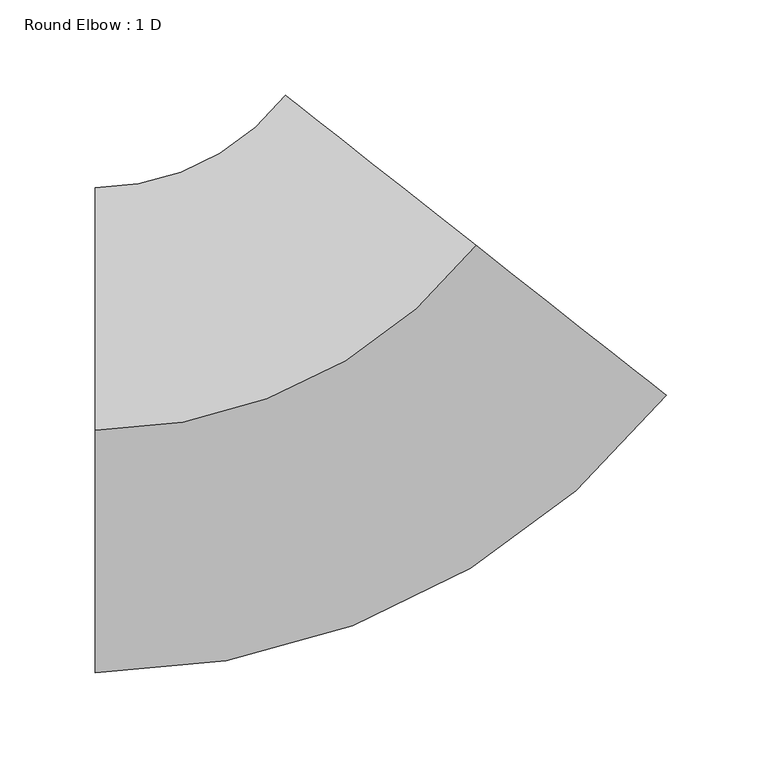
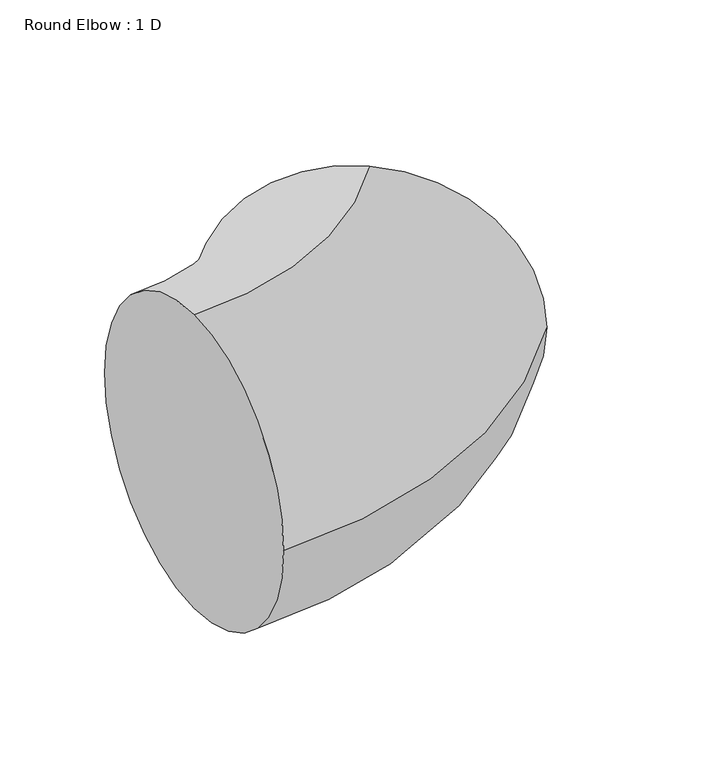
"""IFC4 building model written with IfcOpenShell, lengths in millimetres: duct fitting geometry, Round Elbow : 1 D."""

import ifcopenshell
import ifcopenshell.guid

model = None  # the IFC model being written
_history = None  # IfcOwnerHistory: only IFC2X3 demands one
_inside = {}  # id of a spatial element -> (the spatial element, [elements in it])
_under = {}  # id of a project, library or spatial element -> (it, [spatial elements below it])
_declared = {}  # id of a project -> (the project, [libraries it declares])
_typed = {}  # id of a type object -> (the type object, [elements of that type])
_made_of = {}  # id of a material, layer set ... -> (it, [elements and type objects made of it])


def new_model(schema):
    """Start an empty IFC model of exactly this schema.

    Asked for "IFC4X3", IfcOpenShell would pick the latest addendum, in which some entities
    have other attributes; the version numbers below select the first issue.
    IFC2X3 requires an IfcOwnerHistory on every rooted entity: one is made here for all.
    """
    global model, _history
    if schema == "IFC4X3":
        model = ifcopenshell.file(schema_version=(4, 3, 0, 0))
    else:
        model = ifcopenshell.file(schema=schema)
    _inside.clear()
    _under.clear()
    _declared.clear()
    _typed.clear()
    _made_of.clear()
    _history = None
    if model.schema == "IFC2X3":
        org = make("IfcOrganization", Name="unknown")
        user = make(
            "IfcPersonAndOrganization",
            ThePerson=make("IfcPerson", FamilyName="unknown"),
            TheOrganization=org,
        )
        app = make(
            "IfcApplication",
            ApplicationDeveloper=org,
            Version="unknown",
            ApplicationFullName="unknown",
            ApplicationIdentifier="unknown",
        )
        _history = make(
            "IfcOwnerHistory",
            OwningUser=user,
            OwningApplication=app,
            ChangeAction="ADDED",
            CreationDate=0,
        )
    return model


def make(cls, **values):
    """One entity of the class cls with the attributes given. An attribute that is None is left unset."""
    return model.create_entity(
        cls, **{name: value for name, value in values.items() if value is not None}
    )


def rooted(cls, **values):
    """An entity with a GlobalId (a new one), such as an element, a storey or a relation."""
    return make(cls, GlobalId=ifcopenshell.guid.new(), OwnerHistory=_history, **values)


def si_unit(unit_type, name, prefix=None):
    """IfcSIUnit, for example si_unit("LENGTHUNIT", "METRE", prefix="MILLI")."""
    return make("IfcSIUnit", UnitType=unit_type, Prefix=prefix, Name=name)


def assignment(units):
    """IfcUnitAssignment: the units of a project."""
    return None if units is None else make("IfcUnitAssignment", Units=units)


def point(xyz):
    """IfcCartesianPoint."""
    return None if xyz is None else make("IfcCartesianPoint", Coordinates=xyz)


def direction(xyz):
    """IfcDirection."""
    return None if xyz is None else make("IfcDirection", DirectionRatios=xyz)


def frame(location, z_axis=None, x_axis=None):
    """IfcAxis2Placement3D, a coordinate frame: its origin and axes. An axis left out is left unset."""
    return make(
        "IfcAxis2Placement3D",
        Location=point(location),
        Axis=direction(z_axis),
        RefDirection=direction(x_axis),
    )


def origin():
    """The frame at (0, 0, 0) with its axes left unset."""
    return frame((0.0, 0.0, 0.0))


def place(relative_to, where):
    """IfcLocalPlacement: puts the frame where relative to a parent placement (None: the world)."""
    return make(
        "IfcLocalPlacement", PlacementRelTo=relative_to, RelativePlacement=where
    )


def context(
    kind, dimensions, precision=None, world=None, true_north=None, identifier=None
):
    """IfcGeometricRepresentationContext, for example the 3D "Model" context."""
    return make(
        "IfcGeometricRepresentationContext",
        ContextIdentifier=identifier,
        ContextType=kind,
        CoordinateSpaceDimension=dimensions,
        Precision=precision,
        WorldCoordinateSystem=world,
        TrueNorth=true_north,
    )


def project(units=None, contexts=None):
    """IfcProject with its units and contexts."""
    return rooted(
        "IfcProject",
        Name="project",
        RepresentationContexts=contexts,
        UnitsInContext=assignment(units),
    )


def spatial(cls, under=None, at=None, **own):
    """A site, building, storey or space (cls), placed at a placement, below another one or the project."""
    s = rooted(cls, ObjectPlacement=at, **own)
    if under is not None:
        _under.setdefault(under.id(), (under, []))[1].append(s)
    return s


def circle_curve(where, radius):
    """IfcCircle in the frame where."""
    return make("IfcCircle", Position=where, Radius=radius)


def ellipse_curve(where, semi_axis1, semi_axis2):
    """IfcEllipse in the frame where."""
    return make(
        "IfcEllipse", Position=where, SemiAxis1=semi_axis1, SemiAxis2=semi_axis2
    )


def trimmed(basis, trim1, trim2, sense, master):
    """IfcTrimmedCurve: the piece of a basis curve between two trims."""
    return make(
        "IfcTrimmedCurve",
        BasisCurve=basis,
        Trim1=trim1,
        Trim2=trim2,
        SenseAgreement=sense,
        MasterRepresentation=master,
    )


def shape(context_of_items, identifier, shape_type, items):
    """IfcShapeRepresentation: the items that make up one representation, for example the "Body"."""
    return make(
        "IfcShapeRepresentation",
        ContextOfItems=context_of_items,
        RepresentationIdentifier=identifier,
        RepresentationType=shape_type,
        Items=items,
    )


def source(mapping_origin, context_of_items, identifier, shape_type, items):
    """IfcRepresentationMap: a shape defined once, which mapped items show again and again."""
    return make(
        "IfcRepresentationMap",
        MappingOrigin=mapping_origin,
        MappedRepresentation=shape(context_of_items, identifier, shape_type, items),
    )


def transform(
    local_origin,
    x_axis=None,
    y_axis=None,
    z_axis=None,
    scale=None,
    scale2=None,
    scale3=None,
    uniform=True,
):
    """IfcCartesianTransformationOperator3D, or its non-uniform kind. x_axis, y_axis, z_axis: its Axis1, 2, 3."""
    if uniform:
        return make(
            "IfcCartesianTransformationOperator3D",
            Axis1=direction(x_axis),
            Axis2=direction(y_axis),
            LocalOrigin=point(local_origin),
            Scale=scale,
            Axis3=direction(z_axis),
        )
    return make(
        "IfcCartesianTransformationOperator3DnonUniform",
        Axis1=direction(x_axis),
        Axis2=direction(y_axis),
        LocalOrigin=point(local_origin),
        Scale=scale,
        Axis3=direction(z_axis),
        Scale2=scale2,
        Scale3=scale3,
    )


def mapped(mapping_source, mapping_target):
    """IfcMappedItem: shows the shape of a source again, moved by a transform."""
    return make(
        "IfcMappedItem", MappingSource=mapping_source, MappingTarget=mapping_target
    )


def made_of(thing, what):
    """Note that an element or type object is made of a material, layer set ...; save() writes the relation."""
    if what is not None:
        _made_of.setdefault(what.id(), (what, []))[1].append(thing)
    return thing


def element(
    cls,
    number,
    at=None,
    inside=None,
    cuts=None,
    type_object=None,
    material=None,
    context=None,
    identifier="Body",
    shape_type=None,
    held_by="IfcProductDefinitionShape",
    body=None,
    shapes=None,
    **own,
):
    """One element of the class cls, such as IfcWall. Its Tag is "e" and its number.

    at: its placement. inside: the storey or other place that contains it. cuts: it is an
    opening in that element (IfcRelVoidsElement). A single representation is given by context,
    identifier, shape_type and body (its items); several are given by shapes. held_by: the class
    of the entity that holds the representations. save() writes the other relations.
    """
    e = rooted(cls, Tag="e%d" % number, ObjectPlacement=at, **own)
    if body is not None:
        shapes = [shape(context, identifier, shape_type, body)]
    if shapes is not None:
        e.Representation = make(held_by, Representations=shapes)
    if inside is not None:
        _inside.setdefault(inside.id(), (inside, []))[1].append(e)
    if cuts is not None:
        rooted(
            "IfcRelVoidsElement", RelatingBuildingElement=cuts, RelatedOpeningElement=e
        )
    if type_object is not None:
        _typed.setdefault(type_object.id(), (type_object, []))[1].append(e)
    return made_of(e, material)


def aggregate(whole, parts):
    """IfcRelAggregates: a whole, such as a stair, and the parts it consists of."""
    return rooted("IfcRelAggregates", RelatingObject=whole, RelatedObjects=parts)


def save(model, path):
    """Write the relations noted so far, then the file.

    IfcRelAggregates (storeys below a building ...), IfcRelContainedInSpatialStructure (elements
    in a storey), IfcRelDefinesByType, IfcRelAssociatesMaterial and IfcRelDeclares: one each for
    every whole, place, type object, material and project.
    """
    for whole, parts in _under.values():
        aggregate(whole, parts)
    for where, things in _inside.values():
        rooted(
            "IfcRelContainedInSpatialStructure",
            RelatedElements=things,
            RelatingStructure=where,
        )
    for kind, things in _typed.values():
        rooted("IfcRelDefinesByType", RelatedObjects=things, RelatingType=kind)
    for what, things in _made_of.values():
        rooted("IfcRelAssociatesMaterial", RelatedObjects=things, RelatingMaterial=what)
    for by, libraries in _declared.values():
        rooted("IfcRelDeclares", RelatingContext=by, RelatedDefinitions=libraries)
    model.write(path)


def plane_surface(at):
    """IfcPlane: the flat surface through the origin of the frame at, square to its z axis."""
    return make("IfcPlane", Position=at)


def revolved_surface(curve, axis_point, axis_direction):
    """IfcSurfaceOfRevolution: the curve turned about the line through axis_point along axis_direction."""
    return make(
        "IfcSurfaceOfRevolution",
        SweptCurve=make("IfcArbitraryOpenProfileDef", ProfileType="CURVE", Curve=curve),
        AxisPosition=make("IfcAxis1Placement", Location=point(axis_point), Axis=direction(axis_direction)),
    )


def advanced_brep(points, edges, surfaces, faces):
    """IfcAdvancedBrep: a solid bounded by faces that lie on surfaces and meet in shared edges.

    An edge is (start, end): straight between two places in points (the first is 0);
    or (start, end, curve); or (start, end, curve, False) where it runs against its curve.
    A face is (place in surfaces, loops), or (place, loops, False) where it looks against
    its surface's normal. A loop lists edges by number (the first is 1), with a minus sign
    where the edge is run from its end to its start. The first loop is the outer one.
    """
    corners = [point(p) for p in points]
    vertices = [make("IfcVertexPoint", VertexGeometry=c) for c in corners]
    made = []
    for start, end, *more in edges:
        made.append(
            make(
                "IfcEdgeCurve",
                EdgeStart=vertices[start],
                EdgeEnd=vertices[end],
                EdgeGeometry=more[0] if more else make("IfcPolyline", Points=[corners[start], corners[end]]),
                SameSense=more[1] if len(more) > 1 else True,
            )
        )
    hull = []
    for where, loops, *sense in faces:
        bounds = []
        for j, loop in enumerate(loops):
            ring = [make("IfcOrientedEdge", EdgeElement=made[abs(k) - 1], Orientation=k > 0) for k in loop]
            bounds.append(
                make(
                    "IfcFaceOuterBound" if j == 0 else "IfcFaceBound",
                    Bound=make("IfcEdgeLoop", EdgeList=ring),
                    Orientation=True,
                )
            )
        hull.append(make("IfcAdvancedFace", Bounds=bounds, FaceSurface=surfaces[where], SameSense=sense[0] if sense else True))
    return make("IfcAdvancedBrep", Outer=make("IfcClosedShell", CfsFaces=hull))


def round_elbow_1_d_feab72b3(model_context):
    return source(origin(), model_context, "Body", "AdvancedBrep", [
        advanced_brep(
        [(-123.2884883, 0.0, 127.0), (-123.2884883, 127.0, 0.0), (-123.2884883, 0.0, -127.0), (-123.2884883, -127.0, 0.0), (76.2718255, 96.8641315, 127.0), (176.0519824, 18.2961973, 0.0), (76.2718255, 96.8641315, -127.0), (-23.5083314, 175.4320658, 0.0)],
        [
            (0, 1, circle_curve(frame((-123.2884883, 0.0, 0.0), z_axis=(-1.0, 0.0, 0.0), x_axis=(0.0, 1.0, 0.0)), 127.0)),
            (1, 2, circle_curve(frame((-123.2884883, 0.0, 0.0), z_axis=(-1.0, 0.0, 0.0), x_axis=(0.0, 1.0, 0.0)), 127.0)),
            (2, 3, circle_curve(frame((-123.2884883, 0.0, 0.0), z_axis=(-1.0, 0.0, 0.0), x_axis=(0.0, 1.0, 0.0)), 127.0)),
            (3, 0, circle_curve(frame((-123.2884883, 0.0, 0.0), z_axis=(-1.0, 0.0, 0.0), x_axis=(0.0, 1.0, 0.0)), 127.0)),
            (4, 5, circle_curve(frame((76.2718255, 96.8641315, 0.0), z_axis=(0.6186451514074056, 0.7856705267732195, 0.0), x_axis=(-0.7856705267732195, 0.6186451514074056, 0.0)), 127.0)),
            (5, 6, circle_curve(frame((76.2718255, 96.8641315, 0.0), z_axis=(0.6186451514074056, 0.7856705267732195, 0.0), x_axis=(-0.7856705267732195, 0.6186451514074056, 0.0)), 127.0)),
            (6, 7, circle_curve(frame((76.2718255, 96.8641315, 0.0), z_axis=(0.6186451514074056, 0.7856705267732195, 0.0), x_axis=(-0.7856705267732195, 0.6186451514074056, 0.0)), 127.0)),
            (7, 4, circle_curve(frame((76.2718255, 96.8641315, 0.0), z_axis=(0.6186451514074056, 0.7856705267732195, 0.0), x_axis=(-0.7856705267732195, 0.6186451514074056, 0.0)), 127.0)),
            (7, 1, circle_curve(frame((-123.2884883, 254.0, 0.0), z_axis=(0.0, 0.0, -1.0), x_axis=(0.0, -1.0, 0.0)), 127.0)),
            (0, 4, circle_curve(frame((-123.2884883, 254.0, 127.0), z_axis=(0.0, 0.0, 1.0), x_axis=(0.0, -1.0, 0.0)), 254.0)),
            (6, 2, circle_curve(frame((-123.2884883, 254.0, -127.0), z_axis=(0.0, 0.0, -1.0), x_axis=(0.0, -1.0, 0.0)), 254.0)),
            (5, 3, circle_curve(frame((-123.2884883, 254.0, 0.0), z_axis=(0.0, 0.0, -1.0), x_axis=(0.0, -1.0, 0.0)), 381.0)),
        ],
        [
            plane_surface(frame((-123.2884883, 0.0, 0.0), z_axis=(-1.0, 0.0, 0.0), x_axis=(0.0, 0.0, 1.0))),
            plane_surface(frame((76.2718255, 96.8641315, 0.0), z_axis=(0.6186451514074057, 0.7856705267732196, 0.0), x_axis=(0.0, 0.0, 1.0))),
            revolved_surface(trimmed(ellipse_curve(frame((-123.2884883, 0.0, 0.0), z_axis=(-1.0, 0.0, 0.0), x_axis=(0.0, 1.0, 0.0)), 127.0, 127.0), [point((-123.2884883, 0.0, 127.0))], [point((-123.2884883, 127.0, 0.0))], True, "CARTESIAN"), (-123.2884883, 254.0, 0.0), (0.0, 0.0, 1.0)),
            revolved_surface(trimmed(ellipse_curve(frame((-123.2884883, 0.0, 0.0), z_axis=(-1.0, 0.0, 0.0), x_axis=(0.0, 1.0, 0.0)), 127.0, 127.0), [point((-123.2884883, 127.0, 0.0))], [point((-123.2884883, 0.0, -127.0))], True, "CARTESIAN"), (-123.2884883, 254.0, 0.0), (0.0, 0.0, 1.0)),
            revolved_surface(trimmed(ellipse_curve(frame((-123.2884883, 0.0, 0.0), z_axis=(-1.0, 0.0, 0.0), x_axis=(0.0, 1.0, 0.0)), 127.0, 127.0), [point((-123.2884883, 0.0, -127.0))], [point((-123.2884883, -127.0, 0.0))], True, "CARTESIAN"), (-123.2884883, 254.0, 0.0), (0.0, 0.0, 1.0)),
            revolved_surface(trimmed(ellipse_curve(frame((-123.2884883, 0.0, 0.0), z_axis=(-1.0, 0.0, 0.0), x_axis=(0.0, 1.0, 0.0)), 127.0, 127.0), [point((-123.2884883, -127.0, 0.0))], [point((-123.2884883, 0.0, 127.0))], True, "CARTESIAN"), (-123.2884883, 254.0, 0.0), (0.0, 0.0, 1.0)),
        ],
        [
            (0, [[1, 2, 3, 4]]),
            (1, [[5, 6, 7, 8]]),
            (2, [[9, -1, 10, -8]]),
            (3, [[11, -2, -9, -7]]),
            (4, [[12, -3, -11, -6]]),
            (5, [[-10, -4, -12, -5]]),
        ],
    ),
    ])


if __name__ == "__main__":
    model = new_model("IFC4")
    model_context = context("Model", 3, world=origin())
    ifc_project = project(units=[si_unit("LENGTHUNIT", "METRE", prefix="MILLI")], contexts=[model_context])
    site = spatial("IfcSite", under=ifc_project)
    building = spatial("IfcBuilding", under=site)
    placement = place(None, origin())
    round_elbow_1_d_shape = round_elbow_1_d_feab72b3(model_context)
    element("IfcDuctFitting", 1, ObjectType="Round Elbow : 1 D", at=placement, inside=building, context=model_context, shape_type="MappedRepresentation", body=[
        mapped(round_elbow_1_d_shape, transform((0.0, 0.0, 0.0), x_axis=(1.0, 0.0, 0.0), y_axis=(0.0, 1.0, 0.0), z_axis=(0.0, 0.0, 1.0))),
    ])
    save(model, "model.ifc")
